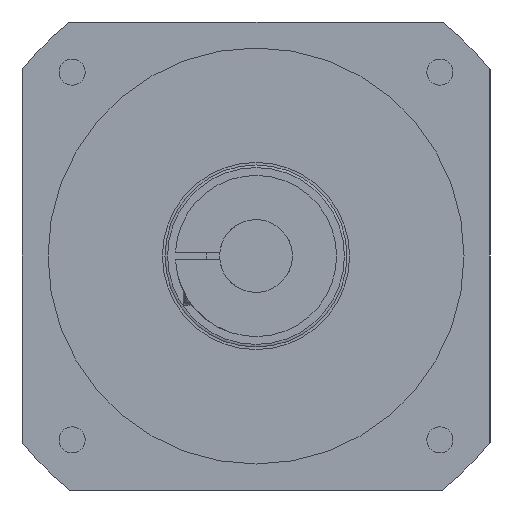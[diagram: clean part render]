
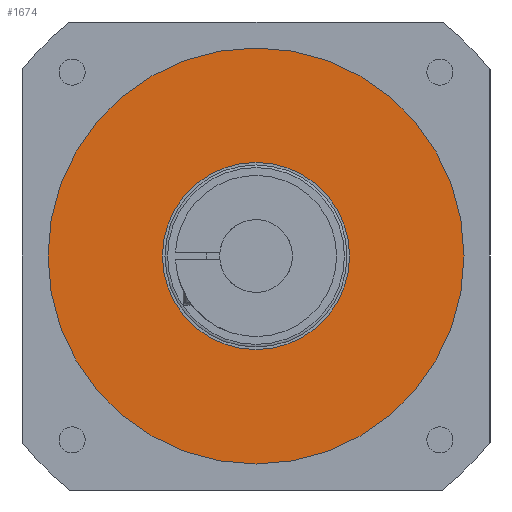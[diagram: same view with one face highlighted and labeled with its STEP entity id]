
A CAD part, left-side view. The second image highlights one B-rep face of the part: STEP entity #1674.
In plain terms, the highlighted planar face has unit normal (-1, 0, 0).
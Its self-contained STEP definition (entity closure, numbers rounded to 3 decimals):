
#355=FACE_BOUND('',#582,.T.);
#437=FACE_OUTER_BOUND('',#581,.T.);
#581=EDGE_LOOP('',(#1307));
#582=EDGE_LOOP('',(#1308));
#689=CIRCLE('',#1825,40.);
#690=CIRCLE('',#1827,18.);
#809=VERTEX_POINT('',#2790);
#810=VERTEX_POINT('',#2793);
#990=EDGE_CURVE('',#809,#809,#689,.T.);
#991=EDGE_CURVE('',#810,#810,#690,.T.);
#1307=ORIENTED_EDGE('',*,*,#990,.T.);
#1308=ORIENTED_EDGE('',*,*,#991,.F.);
#1508=PLANE('',#1826);
#1674=ADVANCED_FACE('',(#437,#355),#1508,.F.);
#1825=AXIS2_PLACEMENT_3D('',#2791,#2176,#2177);
#1826=AXIS2_PLACEMENT_3D('',#2792,#2178,#2179);
#1827=AXIS2_PLACEMENT_3D('',#2794,#2180,#2181);
#2176=DIRECTION('center_axis',(-1.,0.,0.));
#2177=DIRECTION('ref_axis',(0.,1.,0.));
#2178=DIRECTION('center_axis',(1.,0.,0.));
#2179=DIRECTION('ref_axis',(0.,1.,0.));
#2180=DIRECTION('center_axis',(-1.,0.,0.));
#2181=DIRECTION('ref_axis',(0.,1.,0.));
#2790=CARTESIAN_POINT('',(4.,40.,0.));
#2791=CARTESIAN_POINT('Origin',(4.,0.,0.));
#2792=CARTESIAN_POINT('Origin',(4.,0.,0.));
#2793=CARTESIAN_POINT('',(4.,18.,0.));
#2794=CARTESIAN_POINT('Origin',(4.,0.,0.));
